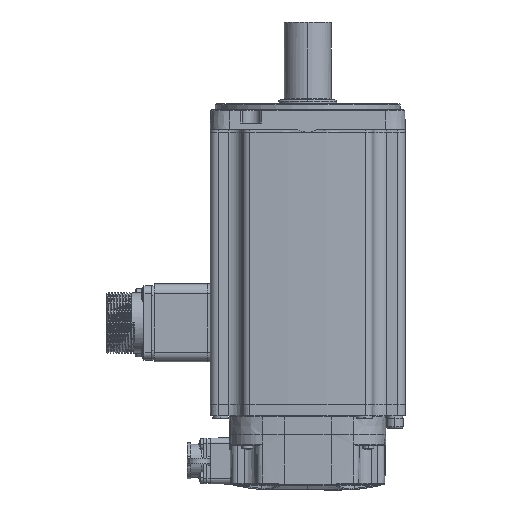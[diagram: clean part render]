
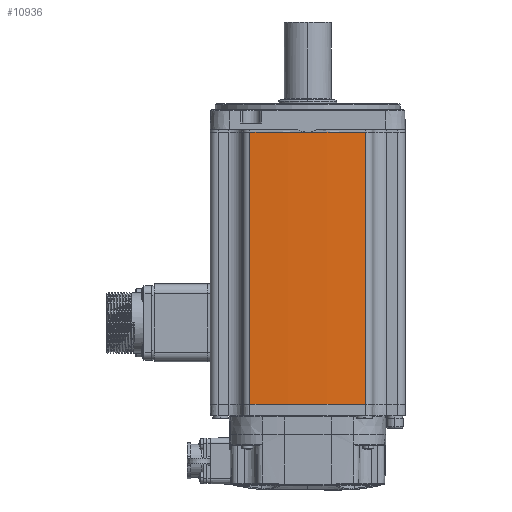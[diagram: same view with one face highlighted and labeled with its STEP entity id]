
A CAD part, left-side view. The second image highlights one B-rep face of the part: STEP entity #10936.
In plain terms, the highlighted cylindrical face has radius 500 mm (diameter 1000 mm), a partial arc.
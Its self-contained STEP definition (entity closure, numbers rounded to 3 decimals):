
#1391 = FACE_OUTER_BOUND ( 'NONE', #75375, .T. ) ;
#1932 = VERTEX_POINT ( 'NONE', #71113 ) ;
#5674 = VERTEX_POINT ( 'NONE', #15769 ) ;
#8175 = CARTESIAN_POINT ( 'NONE',  ( 450., 0., 0. ) ) ;
#10936 = ADVANCED_FACE ( 'NONE', ( #1391 ), #61236, .T. ) ;
#12868 = DIRECTION ( 'NONE',  ( 1., 0., 0. ) ) ;
#13250 = DIRECTION ( 'NONE',  ( 0., 0., 1. ) ) ;
#13483 = DIRECTION ( 'NONE',  ( 0., 0., 1. ) ) ;
#14377 = ORIENTED_EDGE ( 'NONE', *, *, #63184, .F. ) ;
#15769 = CARTESIAN_POINT ( 'NONE',  ( -49.121, 29.637, 0. ) ) ;
#16105 = CARTESIAN_POINT ( 'NONE',  ( -49.121, 29.637, -139.5 ) ) ;
#18821 = VERTEX_POINT ( 'NONE', #16105 ) ;
#19305 = LINE ( 'NONE', #60892, #51779 ) ;
#19690 = DIRECTION ( 'NONE',  ( 0., 0., -1. ) ) ;
#20423 = AXIS2_PLACEMENT_3D ( 'NONE', #8175, #13250, #12868 ) ;
#20560 = EDGE_CURVE ( 'NONE', #5674, #1932, #56405, .T. ) ;
#27305 = AXIS2_PLACEMENT_3D ( 'NONE', #31351, #13483, #36043 ) ;
#30148 = VECTOR ( 'NONE', #19690, 1000. ) ;
#31351 = CARTESIAN_POINT ( 'NONE',  ( 450., 0., -139.5 ) ) ;
#35125 = DIRECTION ( 'NONE',  ( 1., 0., 0. ) ) ;
#36043 = DIRECTION ( 'NONE',  ( 1., 0., 0. ) ) ;
#37580 = DIRECTION ( 'NONE',  ( 0., 0., -1. ) ) ;
#41181 = ORIENTED_EDGE ( 'NONE', *, *, #20560, .F. ) ;
#41880 = CARTESIAN_POINT ( 'NONE',  ( -49.121, -29.637, -139.5 ) ) ;
#43404 = LINE ( 'NONE', #41880, #30148 ) ;
#46389 = CARTESIAN_POINT ( 'NONE',  ( 450., 0., -139.5 ) ) ;
#49854 = VERTEX_POINT ( 'NONE', #66207 ) ;
#51779 = VECTOR ( 'NONE', #37580, 1000. ) ;
#56405 = CIRCLE ( 'NONE', #20423, 500. ) ;
#60024 = AXIS2_PLACEMENT_3D ( 'NONE', #46389, #63857, #35125 ) ;
#60892 = CARTESIAN_POINT ( 'NONE',  ( -49.121, 29.637, -139.5 ) ) ;
#61236 = CYLINDRICAL_SURFACE ( 'NONE', #27305, 500. ) ;
#63184 = EDGE_CURVE ( 'NONE', #1932, #49854, #43404, .T. ) ;
#63857 = DIRECTION ( 'NONE',  ( 0., 0., 1. ) ) ;
#63958 = ORIENTED_EDGE ( 'NONE', *, *, #72955, .T. ) ;
#66207 = CARTESIAN_POINT ( 'NONE',  ( -49.121, -29.637, -139.5 ) ) ;
#69986 = EDGE_CURVE ( 'NONE', #5674, #18821, #19305, .T. ) ;
#71113 = CARTESIAN_POINT ( 'NONE',  ( -49.121, -29.637, 0. ) ) ;
#72955 = EDGE_CURVE ( 'NONE', #18821, #49854, #76180, .T. ) ;
#75375 = EDGE_LOOP ( 'NONE', ( #41181, #75644, #63958, #14377 ) ) ;
#75644 = ORIENTED_EDGE ( 'NONE', *, *, #69986, .T. ) ;
#76180 = CIRCLE ( 'NONE', #60024, 500. ) ;
